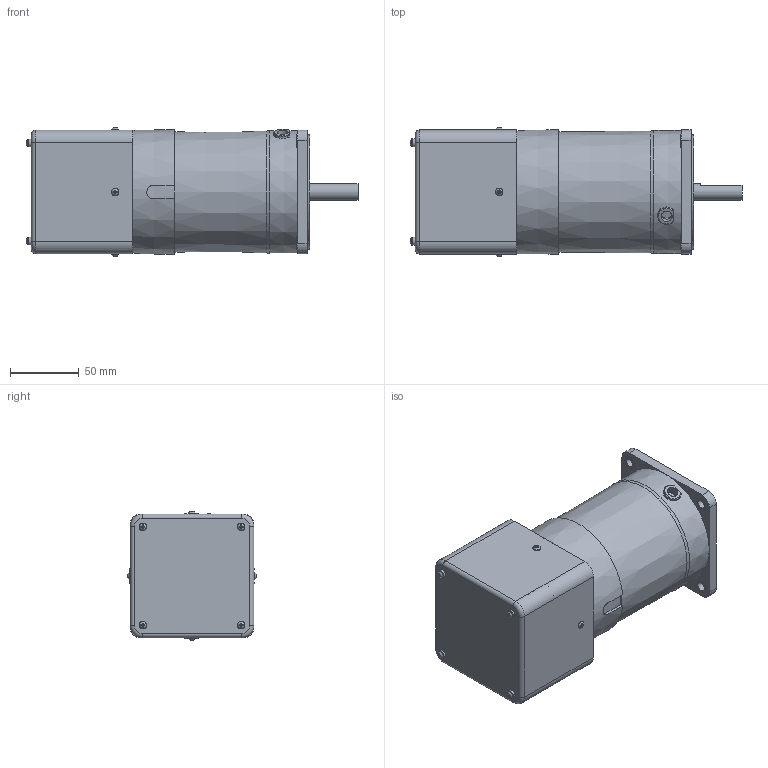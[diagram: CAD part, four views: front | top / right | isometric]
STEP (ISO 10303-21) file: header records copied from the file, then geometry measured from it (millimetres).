
FILE_DESCRIPTION((''),'2;1');
FILE_NAME('D:\STP파일\60W MOTOR\ES TYPE\S9I60D-ES.stp','2013-05-20T18:08:03',('leebh'),(''),'Autodesk Inventor 2011','Autodesk Inventor 2011','');
FILE_SCHEMA(('AUTOMOTIVE_DESIGN { 1 0 10303 214 1 1 1 1 }'));
Length unit declared in the file: millimetre
Products named in the file (1): 부품1
Bounding box: 241.25 x 93.89 x 93.89 mm (x, y, z)
Volume: 1129850.2 mm3; surface area: 113261.9 mm2
Topology: 1 solids, 7 shells, 293 faces, 701 edges, 452 vertices
Faces by surface type: plane 179, cylinder 72, torus 26, cone 8, bspline 8
Full cylindrical faces by diameter (mm): 3 x8, 4.5 x4, 5.6 x12, 6.5 x4, 8 x1, 9.5 x4, 10 x1, 12 x1, 40 x1, 83 x1, 86 x1
Entity records: 8841 total; most frequent: CARTESIAN_POINT 2287, DIRECTION 1260, ORIENTED_EDGE 1226, EDGE_CURVE 613, AXIS2_PLACEMENT_3D 465, VERTEX_POINT 436, EDGE_LOOP 411, VECTOR 330
